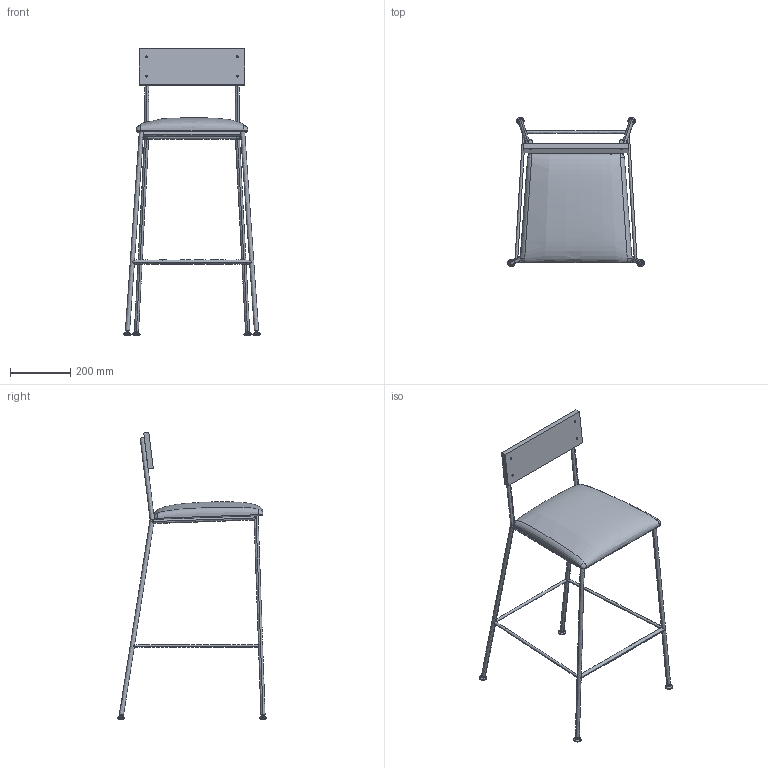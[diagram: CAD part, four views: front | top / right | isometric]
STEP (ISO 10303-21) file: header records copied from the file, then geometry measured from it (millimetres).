
FILE_DESCRIPTION(/* description */ (''),/* implementation_level */ '2;1');
FILE_NAME(/* name */ 'KINOSH~4',/* time_stamp */ '2019-01-17T17:57:52+09:00',/* author */ (''),/* organization */ (''),/* preprocessor_version */ 'ST-DEVELOPER v15',/* originating_system */ '',/* authorisation */ '');
FILE_SCHEMA (('AUTOMOTIVE_DESIGN'));
Length unit declared in the file: millimetre
Products named in the file (1): Document
Bounding box: 453.41 x 495.6 x 950 mm (x, y, z)
Volume: 5713487.3 mm3; surface area: 638842.3 mm2
Topology: 23 solids, 25 shells, 260 faces, 606 edges, 389 vertices
Faces by surface type: bspline 181, plane 79
Entity records: 24839 total; most frequent: CARTESIAN_POINT 21221, ORIENTED_EDGE 1192, EDGE_CURVE 606, VERTEX_POINT 389, EDGE_LOOP 278, ADVANCED_FACE 260, FACE_OUTER_BOUND 260, B_SPLINE_CURVE_WITH_KNOTS 247
